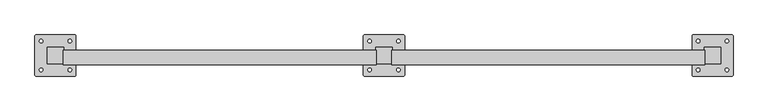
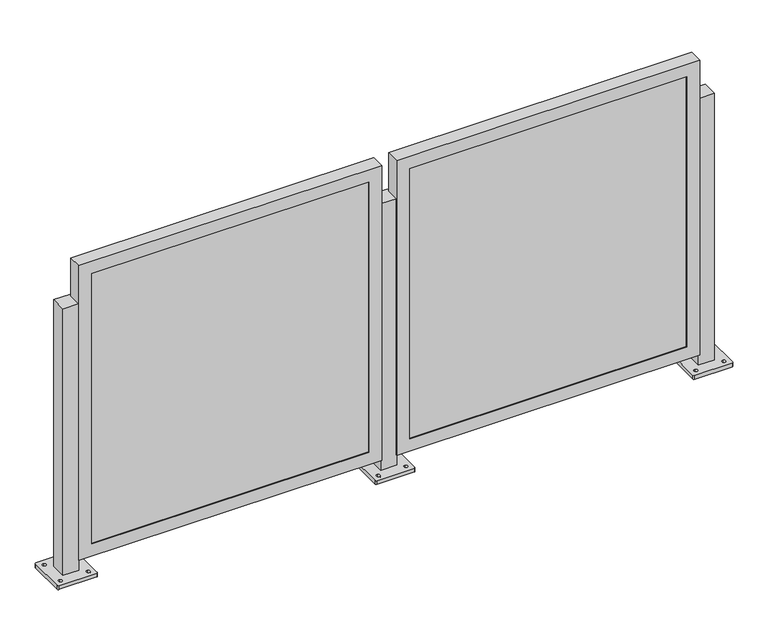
"""IFC4 building model written with IfcOpenShell, lengths in millimetres: railing geometry, Railing - Amico Architectural - Perforated Railing - Sunshade."""

from ifc_helpers import new_model, si_unit, frame, origin, place, context, project, spatial, polyline, circle_curve, outline, extrude, faceted_brep, source, transform, mapped, element, save
from ifc_brep_helpers import plane_surface, cylinder_surface, revolved_surface, advanced_brep


def railing_ad077372(model_context):
    return source(origin(), model_context, "Body", "SolidModel", [
        advanced_brep(
        [(-11320.9530401, 2085.2064263, 914.4), (-11320.9530401, 2034.4064263, 914.4), (-11270.1530401, 2034.4064263, 914.4), (-11270.1530401, 2085.2064263, 914.4), (-11359.0530403, 1999.4814673, 0.0), (-11359.0530403, 2120.1313853, 0.0), (-11355.8780121, 2123.3064134, 0.0), (-11235.2280681, 2123.3064134, 0.0), (-11232.0530399, 2120.1313853, 0.0), (-11232.0530399, 1999.4814673, 0.0), (-11235.2280681, 1996.3064392, 0.0), (-11355.8780121, 1996.3064392, 0.0), (-11340.0030277, 2009.8001716, 0.0), (-11340.0030277, 2020.9126841, 0.0), (-11340.0030386, 2098.700176, 0.0), (-11340.0030386, 2109.8126576, 0.0), (-11251.1030267, 2009.8001732, 0.0), (-11251.1030267, 2020.9126838, 0.0), (-11251.1030376, 2098.7001776, 0.0), (-11251.1030376, 2109.8126574, 0.0), (-11320.9530401, 2085.2064263, 12.7), (-11320.9530401, 2034.4064263, 12.7), (-11270.1530401, 2034.4064263, 12.7), (-11270.1530401, 2085.2064263, 12.7), (-11359.0530403, 1999.4814673, 12.7), (-11355.8780121, 1996.3064392, 12.7), (-11235.2280681, 1996.3064392, 12.7), (-11232.0530399, 1999.4814673, 12.7), (-11232.0530399, 2120.1313853, 12.7), (-11235.2280681, 2123.3064134, 12.7), (-11355.8780121, 2123.3064134, 12.7), (-11359.0530403, 2120.1313853, 12.7), (-11340.0030277, 2009.8001716, 12.7), (-11340.0030277, 2020.9126841, 12.7), (-11340.0030386, 2098.700176, 12.7), (-11340.0030386, 2109.8126576, 12.7), (-11251.1030267, 2009.8001732, 12.7), (-11251.1030267, 2020.9126838, 12.7), (-11251.1030376, 2098.7001776, 12.7), (-11251.1030376, 2109.8126574, 12.7)],
        [
            (0, 1),
            (1, 2),
            (2, 3),
            (3, 0),
            (4, 5),
            (5, 6, circle_curve(frame((-11355.8780121, 2120.1313853, 0.0), z_axis=(0.0, 0.0, -1.0), x_axis=(0.0, 1.0, 0.0)), 3.1750282)),
            (6, 7),
            (7, 8, circle_curve(frame((-11235.2280681, 2120.1313853, 0.0), z_axis=(0.0, 0.0, -1.0), x_axis=(0.0, 1.0, 0.0)), 3.1750282)),
            (8, 9),
            (9, 10, circle_curve(frame((-11235.2280681, 1999.4814673, 0.0), z_axis=(0.0, 0.0, -1.0), x_axis=(0.0, 1.0, 0.0)), 3.1750282)),
            (10, 11),
            (11, 4, circle_curve(frame((-11355.8780121, 1999.4814673, 0.0), z_axis=(0.0, 0.0, -1.0), x_axis=(0.0, 1.0, 0.0)), 3.1750282)),
            (12, 13, circle_curve(frame((-11340.0030277, 2015.3564279, 0.0), z_axis=(0.0, 0.0, 1.0), x_axis=(0.0, 1.0, 0.0)), 5.5562562)),
            (13, 12, circle_curve(frame((-11340.0030277, 2015.3564279, 0.0), z_axis=(0.0, 0.0, 1.0), x_axis=(0.0, 1.0, 0.0)), 5.5562562)),
            (14, 15, circle_curve(frame((-11340.0030386, 2104.2564168, 0.0), z_axis=(0.0, 0.0, 1.0), x_axis=(0.0, 1.0, 0.0)), 5.5562408)),
            (15, 14, circle_curve(frame((-11340.0030386, 2104.2564168, 0.0), z_axis=(0.0, 0.0, 1.0), x_axis=(0.0, 1.0, 0.0)), 5.5562408)),
            (16, 17, circle_curve(frame((-11251.1030267, 2015.3564285, 0.0), z_axis=(0.0, 0.0, 1.0), x_axis=(0.0, 1.0, 0.0)), 5.5562553)),
            (17, 16, circle_curve(frame((-11251.1030267, 2015.3564285, 0.0), z_axis=(0.0, 0.0, 1.0), x_axis=(0.0, 1.0, 0.0)), 5.5562553)),
            (18, 19, circle_curve(frame((-11251.1030376, 2104.2564175, 0.0), z_axis=(0.0, 0.0, 1.0), x_axis=(0.0, 1.0, 0.0)), 5.5562399)),
            (19, 18, circle_curve(frame((-11251.1030376, 2104.2564175, 0.0), z_axis=(0.0, 0.0, 1.0), x_axis=(0.0, 1.0, 0.0)), 5.5562399)),
            (0, 20),
            (20, 21),
            (21, 1),
            (21, 22),
            (22, 2),
            (22, 23),
            (23, 3),
            (23, 20),
            (24, 25, circle_curve(frame((-11355.8780121, 1999.4814673, 12.7), z_axis=(0.0, 0.0, 1.0), x_axis=(0.0, 1.0, 0.0)), 3.1750282)),
            (25, 26),
            (26, 27, circle_curve(frame((-11235.2280681, 1999.4814673, 12.7), z_axis=(0.0, 0.0, 1.0), x_axis=(0.0, 1.0, 0.0)), 3.1750282)),
            (27, 28),
            (28, 29, circle_curve(frame((-11235.2280681, 2120.1313853, 12.7), z_axis=(0.0, 0.0, 1.0), x_axis=(0.0, 1.0, 0.0)), 3.1750282)),
            (29, 30),
            (30, 31, circle_curve(frame((-11355.8780121, 2120.1313853, 12.7), z_axis=(0.0, 0.0, 1.0), x_axis=(0.0, 1.0, 0.0)), 3.1750282)),
            (31, 24),
            (32, 33, circle_curve(frame((-11340.0030277, 2015.3564279, 12.7), z_axis=(0.0, 0.0, -1.0), x_axis=(0.0, 1.0, 0.0)), 5.5562562)),
            (33, 32, circle_curve(frame((-11340.0030277, 2015.3564279, 12.7), z_axis=(0.0, 0.0, -1.0), x_axis=(0.0, 1.0, 0.0)), 5.5562562)),
            (34, 35, circle_curve(frame((-11340.0030386, 2104.2564168, 12.7), z_axis=(0.0, 0.0, -1.0), x_axis=(0.0, 1.0, 0.0)), 5.5562408)),
            (35, 34, circle_curve(frame((-11340.0030386, 2104.2564168, 12.7), z_axis=(0.0, 0.0, -1.0), x_axis=(0.0, 1.0, 0.0)), 5.5562408)),
            (36, 37, circle_curve(frame((-11251.1030267, 2015.3564285, 12.7), z_axis=(0.0, 0.0, -1.0), x_axis=(0.0, 1.0, 0.0)), 5.5562553)),
            (37, 36, circle_curve(frame((-11251.1030267, 2015.3564285, 12.7), z_axis=(0.0, 0.0, -1.0), x_axis=(0.0, 1.0, 0.0)), 5.5562553)),
            (38, 39, circle_curve(frame((-11251.1030376, 2104.2564175, 12.7), z_axis=(0.0, 0.0, -1.0), x_axis=(0.0, 1.0, 0.0)), 5.5562399)),
            (39, 38, circle_curve(frame((-11251.1030376, 2104.2564175, 12.7), z_axis=(0.0, 0.0, -1.0), x_axis=(0.0, 1.0, 0.0)), 5.5562399)),
            (24, 4),
            (11, 25),
            (10, 26),
            (9, 27),
            (8, 28),
            (7, 29),
            (6, 30),
            (5, 31),
            (32, 12),
            (13, 33),
            (34, 14),
            (15, 35),
            (36, 16),
            (17, 37),
            (38, 18),
            (19, 39),
        ],
        [
            plane_surface(frame((-11320.9530401, 2034.4064263, 914.4), z_axis=(0.0, 0.0, 1.0), x_axis=(0.0, -1.0, 0.0))),
            plane_surface(frame((-11320.9530401, 2034.4064263, 0.0), z_axis=(0.0, 0.0, -1.0), x_axis=(0.0, 1.0, 0.0))),
            plane_surface(frame((-11320.9530401, 2085.2064263, 914.4), z_axis=(-1.0, 0.0, 0.0), x_axis=(0.0, 0.0, -1.0))),
            plane_surface(frame((-11320.9530401, 2034.4064263, 914.4), z_axis=(0.0, -1.0, 0.0), x_axis=(0.0, 0.0, -1.0))),
            plane_surface(frame((-11270.1530401, 2034.4064263, 914.4), z_axis=(1.0, 0.0, 0.0), x_axis=(0.0, 0.0, -1.0))),
            plane_surface(frame((-11270.1530401, 2085.2064263, 914.4), z_axis=(0.0, 1.0, 0.0), x_axis=(0.0, 0.0, -1.0))),
            plane_surface(frame((-11355.8780121, 2002.6564955, 12.7), z_axis=(0.0, 0.0, 1.0), x_axis=(-1.0, 0.0, 0.0))),
            cylinder_surface(frame((-11355.8780121, 1999.4814673, 0.0), z_axis=(0.0, 0.0, 1.0), x_axis=(0.0, 1.0, 0.0)), 3.1750282),
            plane_surface(frame((-11355.8780121, 1996.3064392, 12.7), z_axis=(1.1945386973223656e-12, -1.0, 0.0), x_axis=(0.0, 0.0, -1.0))),
            cylinder_surface(frame((-11235.2280681, 1999.4814673, 0.0), z_axis=(0.0, 0.0, 1.0), x_axis=(0.0, 1.0, 0.0)), 3.1750282),
            plane_surface(frame((-11232.0530399, 1999.4814673, 12.7), z_axis=(1.0, 0.0, 0.0), x_axis=(0.0, 0.0, -1.0))),
            cylinder_surface(frame((-11235.2280681, 2120.1313853, 0.0), z_axis=(0.0, 0.0, 1.0), x_axis=(0.0, 1.0, 0.0)), 3.1750282),
            plane_surface(frame((-11235.2280681, 2123.3064134, 12.7), z_axis=(-1.1946088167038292e-12, 1.0, 0.0), x_axis=(0.0, 0.0, -1.0))),
            cylinder_surface(frame((-11355.8780121, 2120.1313853, 0.0), z_axis=(0.0, 0.0, 1.0), x_axis=(0.0, 1.0, 0.0)), 3.1750282),
            plane_surface(frame((-11359.0530403, 2120.1313853, 12.7), z_axis=(-1.0, 0.0, 0.0), x_axis=(0.0, 0.0, -1.0))),
            revolved_surface(polyline([(-11340.0030277, 2020.9126841, 0.0), (-11340.0030277, 2020.9126841, 12.7)]), (-11340.0030277, 2015.3564279, 0.0), (0.0, 0.0, -1.0)),
            revolved_surface(polyline([(-11340.0030386, 2109.8126576, 0.0), (-11340.0030386, 2109.8126576, 12.7)]), (-11340.0030386, 2104.2564168, 0.0), (0.0, 0.0, -1.0)),
            revolved_surface(polyline([(-11251.1030267, 2020.9126838, 0.0), (-11251.1030267, 2020.9126838, 12.7)]), (-11251.1030267, 2015.3564285, 0.0), (0.0, 0.0, -1.0)),
            revolved_surface(polyline([(-11251.1030376, 2109.8126574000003, 0.0), (-11251.1030376, 2109.8126574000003, 12.7)]), (-11251.1030376, 2104.2564175, 0.0), (0.0, 0.0, -1.0)),
        ],
        [
            (0, [[1, 2, 3, 4]]),
            (1, [[5, 6, 7, 8, 9, 10, 11, 12], [13, 14], [15, 16], [17, 18], [19, 20]]),
            (2, [[-1, 21, 22, 23]]),
            (3, [[-2, -23, 24, 25]]),
            (4, [[-3, -25, 26, 27]]),
            (5, [[-4, -27, 28, -21]]),
            (6, [[29, 30, 31, 32, 33, 34, 35, 36], [-22, -28, -26, -24], [37, 38], [39, 40], [41, 42], [43, 44]]),
            (7, [[-29, 45, -12, 46]]),
            (8, [[-30, -46, -11, 47]]),
            (9, [[-31, -47, -10, 48]]),
            (10, [[-32, -48, -9, 49]]),
            (11, [[-33, -49, -8, 50]]),
            (12, [[-34, -50, -7, 51]]),
            (13, [[-35, -51, -6, 52]]),
            (14, [[-36, -52, -5, -45]]),
            (15, [[-37, 53, -14, 54]]),
            (15, [[-38, -54, -13, -53]]),
            (16, [[-39, 55, -16, 56]]),
            (16, [[-40, -56, -15, -55]]),
            (17, [[-41, 57, -18, 58]]),
            (17, [[-42, -58, -17, -57]]),
            (18, [[-43, 59, -20, 60]]),
            (18, [[-44, -60, -19, -59]]),
        ],
    ),
        faceted_brep([(-12287.3574935, 2031.6632263, 47.625), (-11318.9824935, 2031.6632263, 47.625), (-11318.9824935, 2031.6632263, 1044.575), (-12287.3574935, 2031.6632263, 1044.575), (-12246.0824935, 2031.6632263, 1003.3), (-11360.2574935, 2031.6632263, 1003.3), (-11360.2574935, 2031.6632263, 88.9), (-12246.0824935, 2031.6632263, 88.9), (-12246.0824935, 2034.4064263, 1003.3), (-12246.0824935, 2034.4064263, 88.9), (-12287.3574935, 2075.5365228, 1044.575), (-12287.3574935, 2075.5365228, 47.625), (-12284.1824935, 2075.5365228, 1041.4), (-12284.1824935, 2034.4064263, 1041.4), (-12284.1824935, 2034.4064263, 50.8), (-12284.1824935, 2075.5365228, 50.8), (-11360.2574935, 2034.4064263, 88.9), (-11318.9824935, 2075.5365228, 47.625), (-11322.1574935, 2034.4064263, 50.8), (-11322.1574935, 2075.5365228, 50.8), (-11360.2574935, 2034.4064263, 1003.3), (-11318.9824935, 2075.5365228, 1044.575), (-11322.1574935, 2034.4064263, 1041.4), (-11322.1574935, 2075.5365228, 1041.4)], [[[0, 1, 2, 3], [4, 5, 6, 7]], [[8, 4, 7, 9]], [[3, 10, 11, 0]], [[12, 13, 14, 15]], [[9, 7, 6, 16]], [[0, 11, 17, 1]], [[15, 14, 18, 19]], [[16, 6, 5, 20]], [[1, 17, 21, 2]], [[19, 18, 22, 23]], [[20, 5, 4, 8]], [[10, 21, 17, 11], [15, 19, 23, 12]], [[2, 21, 10, 3]], [[13, 22, 18, 14], [9, 16, 20, 8]], [[23, 22, 13, 12]]]),
        extrude(outline(polyline([(-12284.1824935, 2043.9314263), (-11322.1574935, 2043.9314263), (-11322.1574935, 2034.4064263), (-12284.1824935, 2034.4064263), (-12284.1824935, 2043.9314263)])), frame((0.0, 0.0, 50.8), z_axis=(0.0, 0.0, 1.0), x_axis=(1.0, 0.0, 0.0)), (0.0, 0.0, 1.0), 990.6),
        advanced_brep(
        [(-12336.9530401, 2085.2064263, 914.4), (-12336.9530401, 2034.4064263, 914.4), (-12286.1530401, 2034.4064263, 914.4), (-12286.1530401, 2085.2064263, 914.4), (-12375.0530403, 1999.4814673, 0.0), (-12375.0530403, 2120.1313853, 0.0), (-12371.8780121, 2123.3064134, 0.0), (-12251.2280681, 2123.3064134, 0.0), (-12248.0530399, 2120.1313853, 0.0), (-12248.0530399, 1999.4814673, 0.0), (-12251.2280681, 1996.3064392, 0.0), (-12371.8780121, 1996.3064392, 0.0), (-12356.0030277, 2009.8001716, 0.0), (-12356.0030277, 2020.9126841, 0.0), (-12356.0030386, 2098.700176, 0.0), (-12356.0030386, 2109.8126576, 0.0), (-12267.1030267, 2009.8001732, 0.0), (-12267.1030267, 2020.9126838, 0.0), (-12267.1030376, 2098.7001776, 0.0), (-12267.1030376, 2109.8126574, 0.0), (-12336.9530401, 2085.2064263, 12.7), (-12336.9530401, 2034.4064263, 12.7), (-12286.1530401, 2034.4064263, 12.7), (-12286.1530401, 2085.2064263, 12.7), (-12375.0530403, 1999.4814673, 12.7), (-12371.8780121, 1996.3064392, 12.7), (-12251.2280681, 1996.3064392, 12.7), (-12248.0530399, 1999.4814673, 12.7), (-12248.0530399, 2120.1313853, 12.7), (-12251.2280681, 2123.3064134, 12.7), (-12371.8780121, 2123.3064134, 12.7), (-12375.0530403, 2120.1313853, 12.7), (-12356.0030277, 2009.8001716, 12.7), (-12356.0030277, 2020.9126841, 12.7), (-12356.0030386, 2098.700176, 12.7), (-12356.0030386, 2109.8126576, 12.7), (-12267.1030267, 2009.8001732, 12.7), (-12267.1030267, 2020.9126838, 12.7), (-12267.1030376, 2098.7001776, 12.7), (-12267.1030376, 2109.8126574, 12.7)],
        [
            (0, 1),
            (1, 2),
            (2, 3),
            (3, 0),
            (4, 5),
            (5, 6, circle_curve(frame((-12371.8780121, 2120.1313853, 0.0), z_axis=(0.0, 0.0, -1.0), x_axis=(0.0, 1.0, 0.0)), 3.1750282)),
            (6, 7),
            (7, 8, circle_curve(frame((-12251.2280681, 2120.1313853, 0.0), z_axis=(0.0, 0.0, -1.0), x_axis=(0.0, 1.0, 0.0)), 3.1750282)),
            (8, 9),
            (9, 10, circle_curve(frame((-12251.2280681, 1999.4814673, 0.0), z_axis=(0.0, 0.0, -1.0), x_axis=(0.0, 1.0, 0.0)), 3.1750282)),
            (10, 11),
            (11, 4, circle_curve(frame((-12371.8780121, 1999.4814673, 0.0), z_axis=(0.0, 0.0, -1.0), x_axis=(0.0, 1.0, 0.0)), 3.1750282)),
            (12, 13, circle_curve(frame((-12356.0030277, 2015.3564279, 0.0), z_axis=(0.0, 0.0, 1.0), x_axis=(0.0, 1.0, 0.0)), 5.5562562)),
            (13, 12, circle_curve(frame((-12356.0030277, 2015.3564279, 0.0), z_axis=(0.0, 0.0, 1.0), x_axis=(0.0, 1.0, 0.0)), 5.5562562)),
            (14, 15, circle_curve(frame((-12356.0030386, 2104.2564168, 0.0), z_axis=(0.0, 0.0, 1.0), x_axis=(0.0, 1.0, 0.0)), 5.5562408)),
            (15, 14, circle_curve(frame((-12356.0030386, 2104.2564168, 0.0), z_axis=(0.0, 0.0, 1.0), x_axis=(0.0, 1.0, 0.0)), 5.5562408)),
            (16, 17, circle_curve(frame((-12267.1030267, 2015.3564285, 0.0), z_axis=(0.0, 0.0, 1.0), x_axis=(0.0, 1.0, 0.0)), 5.5562553)),
            (17, 16, circle_curve(frame((-12267.1030267, 2015.3564285, 0.0), z_axis=(0.0, 0.0, 1.0), x_axis=(0.0, 1.0, 0.0)), 5.5562553)),
            (18, 19, circle_curve(frame((-12267.1030376, 2104.2564175, 0.0), z_axis=(0.0, 0.0, 1.0), x_axis=(0.0, 1.0, 0.0)), 5.5562399)),
            (19, 18, circle_curve(frame((-12267.1030376, 2104.2564175, 0.0), z_axis=(0.0, 0.0, 1.0), x_axis=(0.0, 1.0, 0.0)), 5.5562399)),
            (0, 20),
            (20, 21),
            (21, 1),
            (21, 22),
            (22, 2),
            (22, 23),
            (23, 3),
            (23, 20),
            (24, 25, circle_curve(frame((-12371.8780121, 1999.4814673, 12.7), z_axis=(0.0, 0.0, 1.0), x_axis=(0.0, 1.0, 0.0)), 3.1750282)),
            (25, 26),
            (26, 27, circle_curve(frame((-12251.2280681, 1999.4814673, 12.7), z_axis=(0.0, 0.0, 1.0), x_axis=(0.0, 1.0, 0.0)), 3.1750282)),
            (27, 28),
            (28, 29, circle_curve(frame((-12251.2280681, 2120.1313853, 12.7), z_axis=(0.0, 0.0, 1.0), x_axis=(0.0, 1.0, 0.0)), 3.1750282)),
            (29, 30),
            (30, 31, circle_curve(frame((-12371.8780121, 2120.1313853, 12.7), z_axis=(0.0, 0.0, 1.0), x_axis=(0.0, 1.0, 0.0)), 3.1750282)),
            (31, 24),
            (32, 33, circle_curve(frame((-12356.0030277, 2015.3564279, 12.7), z_axis=(0.0, 0.0, -1.0), x_axis=(0.0, 1.0, 0.0)), 5.5562562)),
            (33, 32, circle_curve(frame((-12356.0030277, 2015.3564279, 12.7), z_axis=(0.0, 0.0, -1.0), x_axis=(0.0, 1.0, 0.0)), 5.5562562)),
            (34, 35, circle_curve(frame((-12356.0030386, 2104.2564168, 12.7), z_axis=(0.0, 0.0, -1.0), x_axis=(0.0, 1.0, 0.0)), 5.5562408)),
            (35, 34, circle_curve(frame((-12356.0030386, 2104.2564168, 12.7), z_axis=(0.0, 0.0, -1.0), x_axis=(0.0, 1.0, 0.0)), 5.5562408)),
            (36, 37, circle_curve(frame((-12267.1030267, 2015.3564285, 12.7), z_axis=(0.0, 0.0, -1.0), x_axis=(0.0, 1.0, 0.0)), 5.5562553)),
            (37, 36, circle_curve(frame((-12267.1030267, 2015.3564285, 12.7), z_axis=(0.0, 0.0, -1.0), x_axis=(0.0, 1.0, 0.0)), 5.5562553)),
            (38, 39, circle_curve(frame((-12267.1030376, 2104.2564175, 12.7), z_axis=(0.0, 0.0, -1.0), x_axis=(0.0, 1.0, 0.0)), 5.5562399)),
            (39, 38, circle_curve(frame((-12267.1030376, 2104.2564175, 12.7), z_axis=(0.0, 0.0, -1.0), x_axis=(0.0, 1.0, 0.0)), 5.5562399)),
            (24, 4),
            (11, 25),
            (10, 26),
            (9, 27),
            (8, 28),
            (7, 29),
            (6, 30),
            (5, 31),
            (32, 12),
            (13, 33),
            (34, 14),
            (15, 35),
            (36, 16),
            (17, 37),
            (38, 18),
            (19, 39),
        ],
        [
            plane_surface(frame((-12336.9530401, 2034.4064263, 914.4), z_axis=(0.0, 0.0, 1.0), x_axis=(0.0, -1.0, 0.0))),
            plane_surface(frame((-12336.9530401, 2034.4064263, 0.0), z_axis=(0.0, 0.0, -1.0), x_axis=(0.0, 1.0, 0.0))),
            plane_surface(frame((-12336.9530401, 2085.2064263, 914.4), z_axis=(-1.0, 0.0, 0.0), x_axis=(0.0, 0.0, -1.0))),
            plane_surface(frame((-12336.9530401, 2034.4064263, 914.4), z_axis=(0.0, -1.0, 0.0), x_axis=(0.0, 0.0, -1.0))),
            plane_surface(frame((-12286.1530401, 2034.4064263, 914.4), z_axis=(1.0, 0.0, 0.0), x_axis=(0.0, 0.0, -1.0))),
            plane_surface(frame((-12286.1530401, 2085.2064263, 914.4), z_axis=(0.0, 1.0, 0.0), x_axis=(0.0, 0.0, -1.0))),
            plane_surface(frame((-12371.8780121, 2002.6564955, 12.7), z_axis=(0.0, 0.0, 1.0), x_axis=(-1.0, 0.0, 0.0))),
            cylinder_surface(frame((-12371.8780121, 1999.4814673, 0.0), z_axis=(0.0, 0.0, 1.0), x_axis=(0.0, 1.0, 0.0)), 3.1750282),
            plane_surface(frame((-12371.8780121, 1996.3064392, 12.7), z_axis=(1.1945386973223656e-12, -1.0, 0.0), x_axis=(0.0, 0.0, -1.0))),
            cylinder_surface(frame((-12251.2280681, 1999.4814673, 0.0), z_axis=(0.0, 0.0, 1.0), x_axis=(0.0, 1.0, 0.0)), 3.1750282),
            plane_surface(frame((-12248.0530399, 1999.4814673, 12.7), z_axis=(1.0, 0.0, 0.0), x_axis=(0.0, 0.0, -1.0))),
            cylinder_surface(frame((-12251.2280681, 2120.1313853, 0.0), z_axis=(0.0, 0.0, 1.0), x_axis=(0.0, 1.0, 0.0)), 3.1750282),
            plane_surface(frame((-12251.2280681, 2123.3064134, 12.7), z_axis=(-1.1946088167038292e-12, 1.0, 0.0), x_axis=(0.0, 0.0, -1.0))),
            cylinder_surface(frame((-12371.8780121, 2120.1313853, 0.0), z_axis=(0.0, 0.0, 1.0), x_axis=(0.0, 1.0, 0.0)), 3.1750282),
            plane_surface(frame((-12375.0530403, 2120.1313853, 12.7), z_axis=(-1.0, 0.0, 0.0), x_axis=(0.0, 0.0, -1.0))),
            revolved_surface(polyline([(-12356.0030277, 2020.9126841, 0.0), (-12356.0030277, 2020.9126841, 12.7)]), (-12356.0030277, 2015.3564279, 0.0), (0.0, 0.0, -1.0)),
            revolved_surface(polyline([(-12356.0030386, 2109.8126576, 0.0), (-12356.0030386, 2109.8126576, 12.7)]), (-12356.0030386, 2104.2564168, 0.0), (0.0, 0.0, -1.0)),
            revolved_surface(polyline([(-12267.1030267, 2020.9126838, 0.0), (-12267.1030267, 2020.9126838, 12.7)]), (-12267.1030267, 2015.3564285, 0.0), (0.0, 0.0, -1.0)),
            revolved_surface(polyline([(-12267.1030376, 2109.8126574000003, 0.0), (-12267.1030376, 2109.8126574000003, 12.7)]), (-12267.1030376, 2104.2564175, 0.0), (0.0, 0.0, -1.0)),
        ],
        [
            (0, [[1, 2, 3, 4]]),
            (1, [[5, 6, 7, 8, 9, 10, 11, 12], [13, 14], [15, 16], [17, 18], [19, 20]]),
            (2, [[-1, 21, 22, 23]]),
            (3, [[-2, -23, 24, 25]]),
            (4, [[-3, -25, 26, 27]]),
            (5, [[-4, -27, 28, -21]]),
            (6, [[29, 30, 31, 32, 33, 34, 35, 36], [-22, -28, -26, -24], [37, 38], [39, 40], [41, 42], [43, 44]]),
            (7, [[-29, 45, -12, 46]]),
            (8, [[-30, -46, -11, 47]]),
            (9, [[-31, -47, -10, 48]]),
            (10, [[-32, -48, -9, 49]]),
            (11, [[-33, -49, -8, 50]]),
            (12, [[-34, -50, -7, 51]]),
            (13, [[-35, -51, -6, 52]]),
            (14, [[-36, -52, -5, -45]]),
            (15, [[-37, 53, -14, 54]]),
            (15, [[-38, -54, -13, -53]]),
            (16, [[-39, 55, -16, 56]]),
            (16, [[-40, -56, -15, -55]]),
            (17, [[-41, 57, -18, 58]]),
            (17, [[-42, -58, -17, -57]]),
            (18, [[-43, 59, -20, 60]]),
            (18, [[-44, -60, -19, -59]]),
        ],
    ),
        faceted_brep([(-13303.3574935, 2031.6632263, 47.625), (-12334.9824935, 2031.6632263, 47.625), (-12334.9824935, 2031.6632263, 1044.575), (-13303.3574935, 2031.6632263, 1044.575), (-13262.0824935, 2031.6632263, 1003.3), (-12376.2574935, 2031.6632263, 1003.3), (-12376.2574935, 2031.6632263, 88.9), (-13262.0824935, 2031.6632263, 88.9), (-13262.0824935, 2034.4064263, 1003.3), (-13262.0824935, 2034.4064263, 88.9), (-13303.3574935, 2075.5365228, 1044.575), (-13303.3574935, 2075.5365228, 47.625), (-13300.1824935, 2075.5365228, 1041.4), (-13300.1824935, 2034.4064263, 1041.4), (-13300.1824935, 2034.4064263, 50.8), (-13300.1824935, 2075.5365228, 50.8), (-12376.2574935, 2034.4064263, 88.9), (-12334.9824935, 2075.5365228, 47.625), (-12338.1574935, 2034.4064263, 50.8), (-12338.1574935, 2075.5365228, 50.8), (-12376.2574935, 2034.4064263, 1003.3), (-12334.9824935, 2075.5365228, 1044.575), (-12338.1574935, 2034.4064263, 1041.4), (-12338.1574935, 2075.5365228, 1041.4)], [[[0, 1, 2, 3], [4, 5, 6, 7]], [[8, 4, 7, 9]], [[3, 10, 11, 0]], [[12, 13, 14, 15]], [[9, 7, 6, 16]], [[0, 11, 17, 1]], [[15, 14, 18, 19]], [[16, 6, 5, 20]], [[1, 17, 21, 2]], [[19, 18, 22, 23]], [[20, 5, 4, 8]], [[10, 21, 17, 11], [15, 19, 23, 12]], [[2, 21, 10, 3]], [[13, 22, 18, 14], [9, 16, 20, 8]], [[23, 22, 13, 12]]]),
        extrude(outline(polyline([(-13300.1824935, 2043.9314263), (-12338.1574935, 2043.9314263), (-12338.1574935, 2034.4064263), (-13300.1824935, 2034.4064263), (-13300.1824935, 2043.9314263)])), frame((0.0, 0.0, 50.8), z_axis=(0.0, 0.0, 1.0), x_axis=(1.0, 0.0, 0.0)), (0.0, 0.0, 1.0), 990.6),
        advanced_brep(
        [(-13352.9530401, 2085.2064263, 914.4), (-13352.9530401, 2034.4064263, 914.4), (-13302.1530401, 2034.4064263, 914.4), (-13302.1530401, 2085.2064263, 914.4), (-13391.0530403, 1999.4814673, 0.0), (-13391.0530403, 2120.1313853, 0.0), (-13387.8780121, 2123.3064134, 0.0), (-13267.2280681, 2123.3064134, 0.0), (-13264.0530399, 2120.1313853, 0.0), (-13264.0530399, 1999.4814673, 0.0), (-13267.2280681, 1996.3064392, 0.0), (-13387.8780121, 1996.3064392, 0.0), (-13372.0030277, 2009.8001716, 0.0), (-13372.0030277, 2020.9126841, 0.0), (-13372.0030386, 2098.700176, 0.0), (-13372.0030386, 2109.8126576, 0.0), (-13283.1030267, 2009.8001732, 0.0), (-13283.1030267, 2020.9126838, 0.0), (-13283.1030376, 2098.7001776, 0.0), (-13283.1030376, 2109.8126574, 0.0), (-13352.9530401, 2085.2064263, 12.7), (-13352.9530401, 2034.4064263, 12.7), (-13302.1530401, 2034.4064263, 12.7), (-13302.1530401, 2085.2064263, 12.7), (-13391.0530403, 1999.4814673, 12.7), (-13387.8780121, 1996.3064392, 12.7), (-13267.2280681, 1996.3064392, 12.7), (-13264.0530399, 1999.4814673, 12.7), (-13264.0530399, 2120.1313853, 12.7), (-13267.2280681, 2123.3064134, 12.7), (-13387.8780121, 2123.3064134, 12.7), (-13391.0530403, 2120.1313853, 12.7), (-13372.0030277, 2009.8001716, 12.7), (-13372.0030277, 2020.9126841, 12.7), (-13372.0030386, 2098.700176, 12.7), (-13372.0030386, 2109.8126576, 12.7), (-13283.1030267, 2009.8001732, 12.7), (-13283.1030267, 2020.9126838, 12.7), (-13283.1030376, 2098.7001776, 12.7), (-13283.1030376, 2109.8126574, 12.7)],
        [
            (0, 1),
            (1, 2),
            (2, 3),
            (3, 0),
            (4, 5),
            (5, 6, circle_curve(frame((-13387.8780121, 2120.1313853, 0.0), z_axis=(0.0, 0.0, -1.0), x_axis=(0.0, 1.0, 0.0)), 3.1750282)),
            (6, 7),
            (7, 8, circle_curve(frame((-13267.2280681, 2120.1313853, 0.0), z_axis=(0.0, 0.0, -1.0), x_axis=(0.0, 1.0, 0.0)), 3.1750282)),
            (8, 9),
            (9, 10, circle_curve(frame((-13267.2280681, 1999.4814673, 0.0), z_axis=(0.0, 0.0, -1.0), x_axis=(0.0, 1.0, 0.0)), 3.1750282)),
            (10, 11),
            (11, 4, circle_curve(frame((-13387.8780121, 1999.4814673, 0.0), z_axis=(0.0, 0.0, -1.0), x_axis=(0.0, 1.0, 0.0)), 3.1750282)),
            (12, 13, circle_curve(frame((-13372.0030277, 2015.3564279, 0.0), z_axis=(0.0, 0.0, 1.0), x_axis=(0.0, 1.0, 0.0)), 5.5562562)),
            (13, 12, circle_curve(frame((-13372.0030277, 2015.3564279, 0.0), z_axis=(0.0, 0.0, 1.0), x_axis=(0.0, 1.0, 0.0)), 5.5562562)),
            (14, 15, circle_curve(frame((-13372.0030386, 2104.2564168, 0.0), z_axis=(0.0, 0.0, 1.0), x_axis=(0.0, 1.0, 0.0)), 5.5562408)),
            (15, 14, circle_curve(frame((-13372.0030386, 2104.2564168, 0.0), z_axis=(0.0, 0.0, 1.0), x_axis=(0.0, 1.0, 0.0)), 5.5562408)),
            (16, 17, circle_curve(frame((-13283.1030267, 2015.3564285, 0.0), z_axis=(0.0, 0.0, 1.0), x_axis=(0.0, 1.0, 0.0)), 5.5562553)),
            (17, 16, circle_curve(frame((-13283.1030267, 2015.3564285, 0.0), z_axis=(0.0, 0.0, 1.0), x_axis=(0.0, 1.0, 0.0)), 5.5562553)),
            (18, 19, circle_curve(frame((-13283.1030376, 2104.2564175, 0.0), z_axis=(0.0, 0.0, 1.0), x_axis=(0.0, 1.0, 0.0)), 5.5562399)),
            (19, 18, circle_curve(frame((-13283.1030376, 2104.2564175, 0.0), z_axis=(0.0, 0.0, 1.0), x_axis=(0.0, 1.0, 0.0)), 5.5562399)),
            (0, 20),
            (20, 21),
            (21, 1),
            (21, 22),
            (22, 2),
            (22, 23),
            (23, 3),
            (23, 20),
            (24, 25, circle_curve(frame((-13387.8780121, 1999.4814673, 12.7), z_axis=(0.0, 0.0, 1.0), x_axis=(0.0, 1.0, 0.0)), 3.1750282)),
            (25, 26),
            (26, 27, circle_curve(frame((-13267.2280681, 1999.4814673, 12.7), z_axis=(0.0, 0.0, 1.0), x_axis=(0.0, 1.0, 0.0)), 3.1750282)),
            (27, 28),
            (28, 29, circle_curve(frame((-13267.2280681, 2120.1313853, 12.7), z_axis=(0.0, 0.0, 1.0), x_axis=(0.0, 1.0, 0.0)), 3.1750282)),
            (29, 30),
            (30, 31, circle_curve(frame((-13387.8780121, 2120.1313853, 12.7), z_axis=(0.0, 0.0, 1.0), x_axis=(0.0, 1.0, 0.0)), 3.1750282)),
            (31, 24),
            (32, 33, circle_curve(frame((-13372.0030277, 2015.3564279, 12.7), z_axis=(0.0, 0.0, -1.0), x_axis=(0.0, 1.0, 0.0)), 5.5562562)),
            (33, 32, circle_curve(frame((-13372.0030277, 2015.3564279, 12.7), z_axis=(0.0, 0.0, -1.0), x_axis=(0.0, 1.0, 0.0)), 5.5562562)),
            (34, 35, circle_curve(frame((-13372.0030386, 2104.2564168, 12.7), z_axis=(0.0, 0.0, -1.0), x_axis=(0.0, 1.0, 0.0)), 5.5562408)),
            (35, 34, circle_curve(frame((-13372.0030386, 2104.2564168, 12.7), z_axis=(0.0, 0.0, -1.0), x_axis=(0.0, 1.0, 0.0)), 5.5562408)),
            (36, 37, circle_curve(frame((-13283.1030267, 2015.3564285, 12.7), z_axis=(0.0, 0.0, -1.0), x_axis=(0.0, 1.0, 0.0)), 5.5562553)),
            (37, 36, circle_curve(frame((-13283.1030267, 2015.3564285, 12.7), z_axis=(0.0, 0.0, -1.0), x_axis=(0.0, 1.0, 0.0)), 5.5562553)),
            (38, 39, circle_curve(frame((-13283.1030376, 2104.2564175, 12.7), z_axis=(0.0, 0.0, -1.0), x_axis=(0.0, 1.0, 0.0)), 5.5562399)),
            (39, 38, circle_curve(frame((-13283.1030376, 2104.2564175, 12.7), z_axis=(0.0, 0.0, -1.0), x_axis=(0.0, 1.0, 0.0)), 5.5562399)),
            (24, 4),
            (11, 25),
            (10, 26),
            (9, 27),
            (8, 28),
            (7, 29),
            (6, 30),
            (5, 31),
            (32, 12),
            (13, 33),
            (34, 14),
            (15, 35),
            (36, 16),
            (17, 37),
            (38, 18),
            (19, 39),
        ],
        [
            plane_surface(frame((-13352.9530401, 2034.4064263, 914.4), z_axis=(0.0, 0.0, 1.0), x_axis=(0.0, -1.0, 0.0))),
            plane_surface(frame((-13352.9530401, 2034.4064263, 0.0), z_axis=(0.0, 0.0, -1.0), x_axis=(0.0, 1.0, 0.0))),
            plane_surface(frame((-13352.9530401, 2085.2064263, 914.4), z_axis=(-1.0, 0.0, 0.0), x_axis=(0.0, 0.0, -1.0))),
            plane_surface(frame((-13352.9530401, 2034.4064263, 914.4), z_axis=(0.0, -1.0, 0.0), x_axis=(0.0, 0.0, -1.0))),
            plane_surface(frame((-13302.1530401, 2034.4064263, 914.4), z_axis=(1.0, 0.0, 0.0), x_axis=(0.0, 0.0, -1.0))),
            plane_surface(frame((-13302.1530401, 2085.2064263, 914.4), z_axis=(0.0, 1.0, 0.0), x_axis=(0.0, 0.0, -1.0))),
            plane_surface(frame((-13387.8780121, 2002.6564955, 12.7), z_axis=(0.0, 0.0, 1.0), x_axis=(-1.0, 0.0, 0.0))),
            cylinder_surface(frame((-13387.8780121, 1999.4814673, 0.0), z_axis=(0.0, 0.0, 1.0), x_axis=(0.0, 1.0, 0.0)), 3.1750282),
            plane_surface(frame((-13387.8780121, 1996.3064392, 12.7), z_axis=(1.1945386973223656e-12, -1.0, 0.0), x_axis=(0.0, 0.0, -1.0))),
            cylinder_surface(frame((-13267.2280681, 1999.4814673, 0.0), z_axis=(0.0, 0.0, 1.0), x_axis=(0.0, 1.0, 0.0)), 3.1750282),
            plane_surface(frame((-13264.0530399, 1999.4814673, 12.7), z_axis=(1.0, 0.0, 0.0), x_axis=(0.0, 0.0, -1.0))),
            cylinder_surface(frame((-13267.2280681, 2120.1313853, 0.0), z_axis=(0.0, 0.0, 1.0), x_axis=(0.0, 1.0, 0.0)), 3.1750282),
            plane_surface(frame((-13267.2280681, 2123.3064134, 12.7), z_axis=(-1.1946088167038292e-12, 1.0, 0.0), x_axis=(0.0, 0.0, -1.0))),
            cylinder_surface(frame((-13387.8780121, 2120.1313853, 0.0), z_axis=(0.0, 0.0, 1.0), x_axis=(0.0, 1.0, 0.0)), 3.1750282),
            plane_surface(frame((-13391.0530403, 2120.1313853, 12.7), z_axis=(-1.0, 0.0, 0.0), x_axis=(0.0, 0.0, -1.0))),
            revolved_surface(polyline([(-13372.0030277, 2020.9126841, 0.0), (-13372.0030277, 2020.9126841, 12.7)]), (-13372.0030277, 2015.3564279, 0.0), (0.0, 0.0, -1.0)),
            revolved_surface(polyline([(-13372.0030386, 2109.8126576, 0.0), (-13372.0030386, 2109.8126576, 12.7)]), (-13372.0030386, 2104.2564168, 0.0), (0.0, 0.0, -1.0)),
            revolved_surface(polyline([(-13283.1030267, 2020.9126838, 0.0), (-13283.1030267, 2020.9126838, 12.7)]), (-13283.1030267, 2015.3564285, 0.0), (0.0, 0.0, -1.0)),
            revolved_surface(polyline([(-13283.1030376, 2109.8126574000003, 0.0), (-13283.1030376, 2109.8126574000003, 12.7)]), (-13283.1030376, 2104.2564175, 0.0), (0.0, 0.0, -1.0)),
        ],
        [
            (0, [[1, 2, 3, 4]]),
            (1, [[5, 6, 7, 8, 9, 10, 11, 12], [13, 14], [15, 16], [17, 18], [19, 20]]),
            (2, [[-1, 21, 22, 23]]),
            (3, [[-2, -23, 24, 25]]),
            (4, [[-3, -25, 26, 27]]),
            (5, [[-4, -27, 28, -21]]),
            (6, [[29, 30, 31, 32, 33, 34, 35, 36], [-22, -28, -26, -24], [37, 38], [39, 40], [41, 42], [43, 44]]),
            (7, [[-29, 45, -12, 46]]),
            (8, [[-30, -46, -11, 47]]),
            (9, [[-31, -47, -10, 48]]),
            (10, [[-32, -48, -9, 49]]),
            (11, [[-33, -49, -8, 50]]),
            (12, [[-34, -50, -7, 51]]),
            (13, [[-35, -51, -6, 52]]),
            (14, [[-36, -52, -5, -45]]),
            (15, [[-37, 53, -14, 54]]),
            (15, [[-38, -54, -13, -53]]),
            (16, [[-39, 55, -16, 56]]),
            (16, [[-40, -56, -15, -55]]),
            (17, [[-41, 57, -18, 58]]),
            (17, [[-42, -58, -17, -57]]),
            (18, [[-43, 59, -20, 60]]),
            (18, [[-44, -60, -19, -59]]),
        ],
    ),
    ])


if __name__ == "__main__":
    model = new_model("IFC4")
    model_context = context("Model", 3, world=origin())
    ifc_project = project(units=[si_unit("LENGTHUNIT", "METRE", prefix="MILLI")], contexts=[model_context])
    site = spatial("IfcSite", under=ifc_project)
    building = spatial("IfcBuilding", under=site)
    placement = place(None, origin())
    railing_shape = railing_ad077372(model_context)
    element("IfcRailing", 1, ObjectType="Railing - Amico Architectural - Perforated Railing - Sunshade", at=placement, inside=building, context=model_context, shape_type="MappedRepresentation", body=[
        mapped(railing_shape, transform((0.0, 0.0, 0.0), x_axis=(1.0, 0.0, 0.0), y_axis=(0.0, 1.0, 0.0), z_axis=(0.0, 0.0, 1.0))),
    ])
    save(model, "model.ifc")
